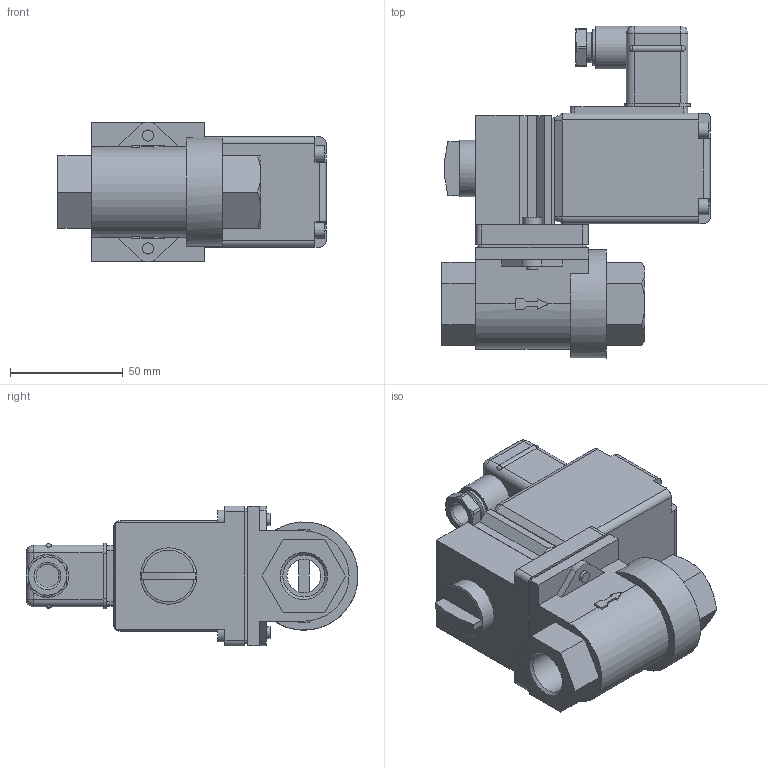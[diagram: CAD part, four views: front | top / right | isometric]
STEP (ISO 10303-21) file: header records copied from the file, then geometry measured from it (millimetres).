
FILE_DESCRIPTION(/* description */ ('STEP AP203'),/* implementation_level */ '2;1');
FILE_NAME(/* name */ '0131-330725-Direct-acting_2_2_or_3_2_way_toggle_valves',/* time_stamp */ '2023-12-31T14:11:55+01:00',/* author */ ('License CC BY-ND 4.0'),/* organization */ ('CADENAS'),/* preprocessor_version */ 'ST-DEVELOPER v19.3',/* originating_system */ 'PARTsolutions',/* authorisation */ ' ');
FILE_SCHEMA (('CONFIG_CONTROL_DESIGN'));
Length unit declared in the file: millimetre
Products named in the file (1): 0131-330725-Direct-acting 2/2 or 3/2 way toggle valves
Bounding box: 119 x 147.17 x 62 mm (x, y, z)
Volume: 425173.3 mm3; surface area: 55619.4 mm2
Topology: 1 solids, 2 shells, 262 faces, 670 edges, 430 vertices
Faces by surface type: plane 163, cylinder 68, cone 21, sphere 9, torus 1
Full cylindrical faces by diameter (mm): 2.459 x1, 5 x2, 7 x5, 8.5 x2, 10 x1, 13.7 x1, 15 x1, 16 x1, 18.631 x2, 19 x1, 25 x1, 48 x1
Entity records: 9576 total; most frequent: CARTESIAN_POINT 1453, DIRECTION 1309, ORIENTED_EDGE 1260, EDGE_CURVE 630, AXIS2_PLACEMENT_3D 454, VERTEX_POINT 421, LINE 401, VECTOR 401
